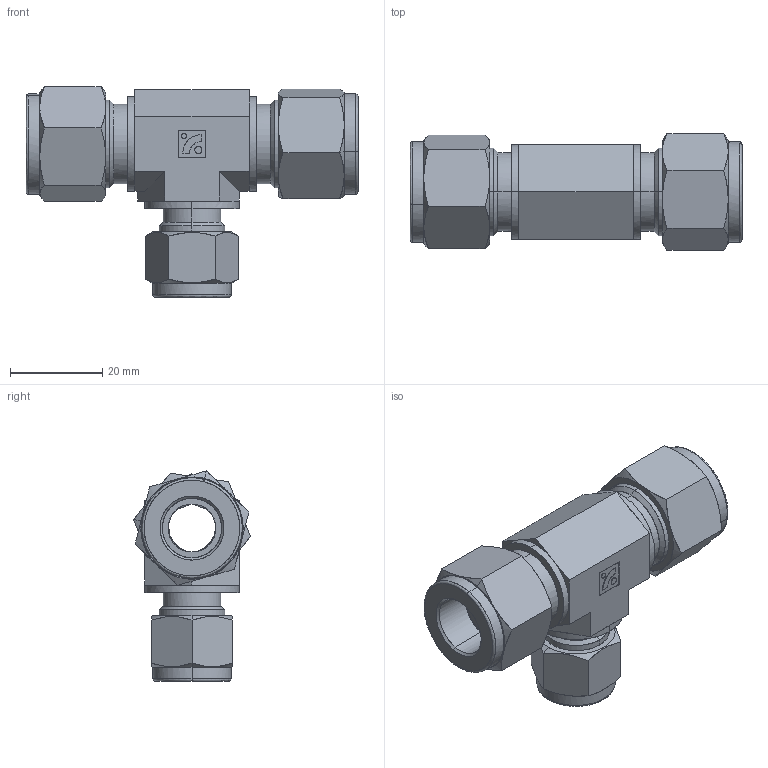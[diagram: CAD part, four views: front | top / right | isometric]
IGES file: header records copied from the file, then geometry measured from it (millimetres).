
Start section: Comment
Global section: file name: SRUT8-8-6.igs; native system:  By UGS Corp.; preprocessor: XPlus GENERIC/IGES 3.0; author: Author; organization: Title; date: 20100713.193847; units: millimetre
Bounding box: 72.12 x 25.4 x 45.71 mm (x, y, z)
Surface area: 14395.5 mm2 (no closed solid volume)
Topology: 0 solids, 0 shells, 201 faces, 874 edges, 874 vertices
Faces by surface type: bspline 201
